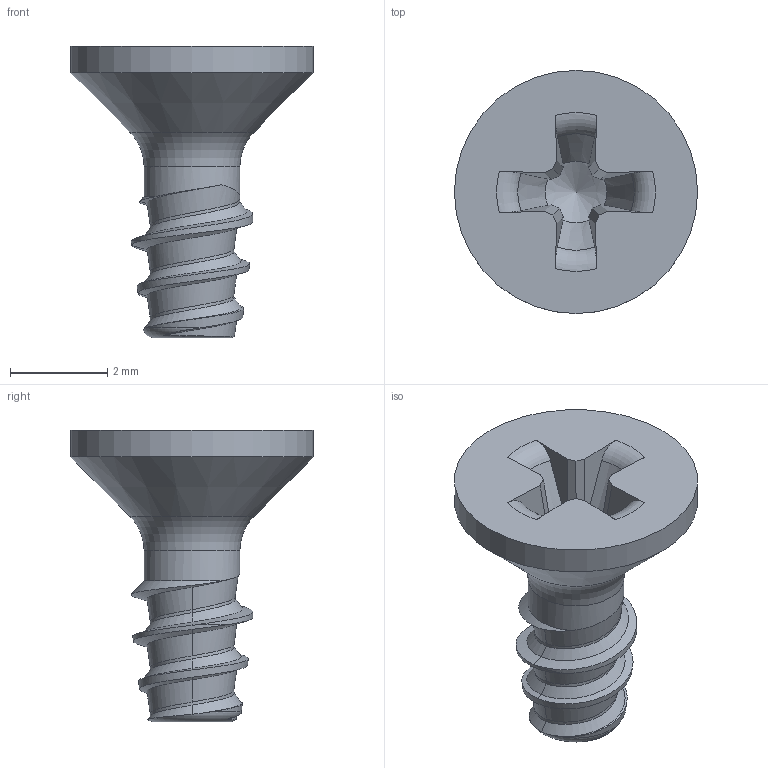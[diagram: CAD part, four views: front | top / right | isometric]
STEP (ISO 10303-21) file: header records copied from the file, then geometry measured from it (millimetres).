
FILE_DESCRIPTION(/* description */ (''),/* implementation_level */ '2;1');
FILE_NAME(/* name */ 'KN6041-STSplus-25x6-H1.step',/* time_stamp */ '2017-10-12T11:26:47+02:00',/* author */ (''),/* organization */ (''),/* preprocessor_version */ 'ST-DEVELOPER v16',/* originating_system */ 'SIEMENS PLM Software NX 10.0',/* authorisation */ '');
FILE_SCHEMA (('AUTOMOTIVE_DESIGN { 1 0 10303 214 3 1 1 1 }'));
Length unit declared in the file: millimetre
Products named in the file (1): KN6041-STSplus-25x6-H1
Bounding box: 5 x 5 x 6 mm (x, y, z)
Volume: 34.5 mm3; surface area: 92.6 mm2
Topology: 1 solids, 1 shells, 52 faces, 141 edges, 91 vertices
Faces by surface type: plane 18, bspline 16, cone 8, torus 6, cylinder 4
Full cylindrical faces by diameter (mm): 1.97 x1, 5 x1
Entity records: 2545 total; most frequent: CARTESIAN_POINT 1436, ORIENTED_EDGE 260, DIRECTION 155, EDGE_CURVE 130, VERTEX_POINT 87, B_SPLINE_CURVE_WITH_KNOTS 70, EDGE_LOOP 58, AXIS2_PLACEMENT_3D 58
